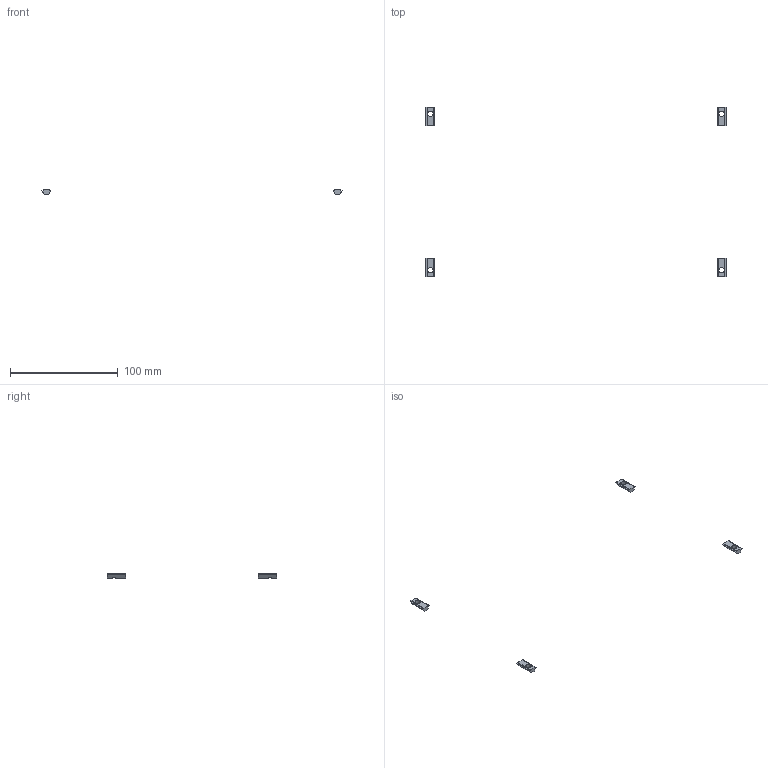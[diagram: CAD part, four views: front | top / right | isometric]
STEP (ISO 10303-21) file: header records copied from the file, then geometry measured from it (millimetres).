
FILE_DESCRIPTION(/* description */ (''),/* implementation_level */ '2;1');
FILE_NAME(/* name */ '10.optics-laser#10.5#HNTPZ5-5',/* time_stamp */ '2014-12-01T20:19:31+01:00',/* author */ (''),/* organization */ (''),/* preprocessor_version */ 'ST-DEVELOPER v14',/* originating_system */ '',/* authorisation */ '');
FILE_SCHEMA (('AUTOMOTIVE_DESIGN'));
Length unit declared in the file: millimetre
Products named in the file (2): Document; nut tslot, post, M5
Assembly tree (4 placements, depth 2):
  Document
    nut tslot, post, M5  x4
Bounding box: 278.3 x 157 x 3.8 mm (x, y, z)
Volume: 1260 mm3; surface area: 1678 mm2
Topology: 4 solids, 4 shells, 52 faces, 144 edges, 96 vertices
Faces by surface type: plane 44, bspline 8
Entity records: 1025 total; most frequent: CARTESIAN_POINT 463, B_SPLINE_CURVE_WITH_KNOTS 100, ORIENTED_EDGE 72, PCURVE 72, DEFINITIONAL_REPRESENTATION 72, SURFACE_CURVE 36, EDGE_CURVE 36, VERTEX_POINT 24
